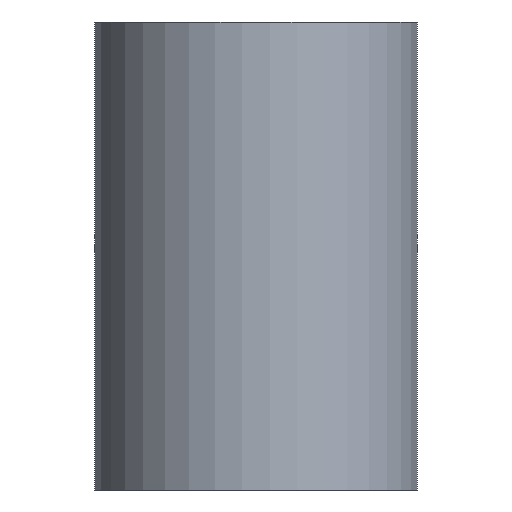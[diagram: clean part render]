
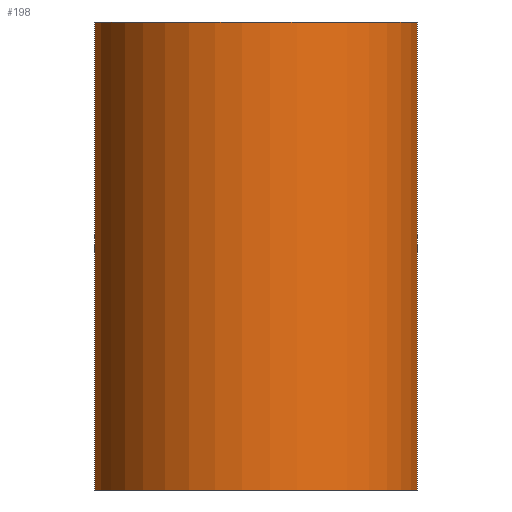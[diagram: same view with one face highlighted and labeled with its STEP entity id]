
A CAD part, left-side view. The second image highlights one B-rep face of the part: STEP entity #198.
In plain terms, the highlighted cylindrical face has radius 23.5 mm (diameter 47 mm), a partial arc.
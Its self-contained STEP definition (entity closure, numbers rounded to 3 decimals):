
#31=CYLINDRICAL_SURFACE('',#284,23.5);
#35=CIRCLE('',#282,23.5);
#37=CIRCLE('',#285,23.5);
#46=FACE_OUTER_BOUND('',#58,.T.);
#58=EDGE_LOOP('',(#151,#152,#153,#154));
#68=LINE('',#375,#84);
#74=LINE('',#387,#90);
#84=VECTOR('',#309,10.);
#90=VECTOR('',#317,10.);
#99=VERTEX_POINT('',#371);
#101=VERTEX_POINT('',#374);
#104=VERTEX_POINT('',#381);
#106=VERTEX_POINT('',#385);
#116=EDGE_CURVE('',#101,#99,#68,.T.);
#122=EDGE_CURVE('',#104,#106,#74,.T.);
#123=EDGE_CURVE('',#101,#106,#35,.T.);
#125=EDGE_CURVE('',#104,#99,#37,.T.);
#151=ORIENTED_EDGE('',*,*,#116,.T.);
#152=ORIENTED_EDGE('',*,*,#125,.F.);
#153=ORIENTED_EDGE('',*,*,#122,.T.);
#154=ORIENTED_EDGE('',*,*,#123,.F.);
#198=ADVANCED_FACE('',(#46),#31,.T.);
#282=AXIS2_PLACEMENT_3D('',#389,#320,#321);
#284=AXIS2_PLACEMENT_3D('',#391,#324,#325);
#285=AXIS2_PLACEMENT_3D('',#392,#326,#327);
#309=DIRECTION('',(0.,0.,-1.));
#317=DIRECTION('',(0.,0.,1.));
#320=DIRECTION('center_axis',(0.,0.,1.));
#321=DIRECTION('ref_axis',(1.,0.,0.));
#324=DIRECTION('center_axis',(0.,0.,1.));
#325=DIRECTION('ref_axis',(-1.,0.,0.));
#326=DIRECTION('center_axis',(0.,0.,-1.));
#327=DIRECTION('ref_axis',(1.,0.,0.));
#371=CARTESIAN_POINT('',(20.737,11.056,-34.));
#374=CARTESIAN_POINT('',(20.737,11.056,34.));
#375=CARTESIAN_POINT('',(20.737,11.056,0.));
#381=CARTESIAN_POINT('',(20.737,-11.056,-34.));
#385=CARTESIAN_POINT('',(20.737,-11.056,34.));
#387=CARTESIAN_POINT('',(20.737,-11.056,0.));
#389=CARTESIAN_POINT('Origin',(0.,0.,34.));
#391=CARTESIAN_POINT('Origin',(0.,0.,0.));
#392=CARTESIAN_POINT('Origin',(0.,0.,-34.));
